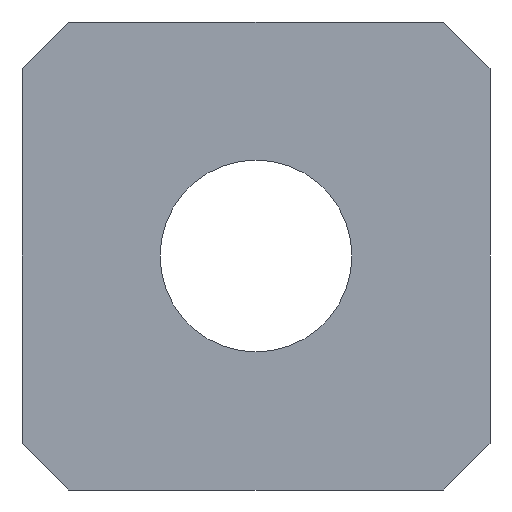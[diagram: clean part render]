
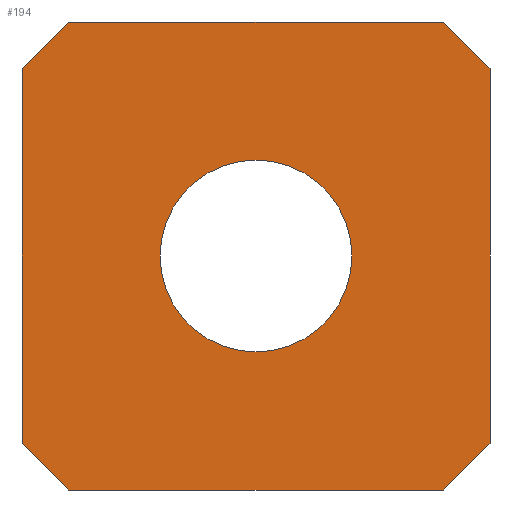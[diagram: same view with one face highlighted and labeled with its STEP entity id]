
A CAD part, front view. The second image highlights one B-rep face of the part: STEP entity #194.
In plain terms, the highlighted planar face has unit normal (0, -1, 0).
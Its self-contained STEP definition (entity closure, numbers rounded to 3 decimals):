
#1=DIRECTION('',(0.,0.,1.));
#2=VECTOR('',#1,16.);
#3=CARTESIAN_POINT('',(-10.,0.,-8.));
#4=LINE('',#3,#2);
#5=DIRECTION('',(1.,0.,0.));
#6=VECTOR('',#5,16.);
#7=CARTESIAN_POINT('',(-8.,0.,10.));
#8=LINE('',#7,#6);
#9=DIRECTION('',(0.,0.,-1.));
#10=VECTOR('',#9,16.);
#11=CARTESIAN_POINT('',(10.,0.,8.));
#12=LINE('',#11,#10);
#13=DIRECTION('',(-1.,0.,0.));
#14=VECTOR('',#13,16.);
#15=CARTESIAN_POINT('',(8.,0.,-10.));
#16=LINE('',#15,#14);
#17=CARTESIAN_POINT('',(0.,0.,0.));
#18=DIRECTION('',(0.,1.,0.));
#19=DIRECTION('',(1.,0.,0.));
#20=AXIS2_PLACEMENT_3D('',#17,#18,#19);
#22=CARTESIAN_POINT('',(0.,0.,0.));
#23=DIRECTION('',(0.,1.,0.));
#24=DIRECTION('',(-1.,0.,0.));
#25=AXIS2_PLACEMENT_3D('',#22,#23,#24);
#31=DIRECTION('',(0.707,0.,-0.707));
#32=VECTOR('',#31,2.828);
#33=CARTESIAN_POINT('',(-10.,0.,-8.));
#34=LINE('',#33,#32);
#47=DIRECTION('',(0.707,0.,0.707));
#48=VECTOR('',#47,2.828);
#49=CARTESIAN_POINT('',(8.,0.,-10.));
#50=LINE('',#49,#48);
#63=DIRECTION('',(-0.707,0.,0.707));
#64=VECTOR('',#63,2.828);
#65=CARTESIAN_POINT('',(10.,0.,8.));
#66=LINE('',#65,#64);
#79=DIRECTION('',(-0.707,0.,-0.707));
#80=VECTOR('',#79,2.828);
#81=CARTESIAN_POINT('',(-8.,0.,10.));
#82=LINE('',#81,#80);
#125=CARTESIAN_POINT('',(4.1,0.,0.));
#126=CARTESIAN_POINT('',(-4.1,0.,0.));
#127=VERTEX_POINT('',#125);
#128=VERTEX_POINT('',#126);
#133=CARTESIAN_POINT('',(10.,0.,8.));
#135=VERTEX_POINT('',#133);
#137=CARTESIAN_POINT('',(8.,0.,10.));
#139=VERTEX_POINT('',#137);
#141=CARTESIAN_POINT('',(-8.,0.,10.));
#143=VERTEX_POINT('',#141);
#145=CARTESIAN_POINT('',(-10.,0.,8.));
#147=VERTEX_POINT('',#145);
#149=CARTESIAN_POINT('',(-10.,0.,-8.));
#151=VERTEX_POINT('',#149);
#153=CARTESIAN_POINT('',(-8.,0.,-10.));
#155=VERTEX_POINT('',#153);
#157=CARTESIAN_POINT('',(8.,0.,-10.));
#159=VERTEX_POINT('',#157);
#161=CARTESIAN_POINT('',(10.,0.,-8.));
#163=VERTEX_POINT('',#161);
#165=CARTESIAN_POINT('',(0.,0.,0.));
#166=DIRECTION('',(0.,1.,0.));
#167=DIRECTION('',(1.,0.,0.));
#168=AXIS2_PLACEMENT_3D('',#165,#166,#167);
#169=PLANE('',#168);
#171=ORIENTED_EDGE('',*,*,#170,.T.);
#173=ORIENTED_EDGE('',*,*,#172,.F.);
#175=ORIENTED_EDGE('',*,*,#174,.T.);
#177=ORIENTED_EDGE('',*,*,#176,.F.);
#179=ORIENTED_EDGE('',*,*,#178,.T.);
#181=ORIENTED_EDGE('',*,*,#180,.F.);
#183=ORIENTED_EDGE('',*,*,#182,.T.);
#185=ORIENTED_EDGE('',*,*,#184,.F.);
#186=EDGE_LOOP('',(#171,#173,#175,#177,#179,#181,#183,#185));
#187=FACE_OUTER_BOUND('',#186,.F.);
#189=ORIENTED_EDGE('',*,*,#188,.F.);
#191=ORIENTED_EDGE('',*,*,#190,.F.);
#192=EDGE_LOOP('',(#189,#191));
#193=FACE_BOUND('',#192,.F.);
#194=ADVANCED_FACE('',(#187,#193),#169,.F.);
#21=CIRCLE('',#20,4.1);
#26=CIRCLE('',#25,4.1);
#170=EDGE_CURVE('',#151,#147,#4,.T.);
#172=EDGE_CURVE('',#143,#147,#82,.T.);
#174=EDGE_CURVE('',#143,#139,#8,.T.);
#176=EDGE_CURVE('',#135,#139,#66,.T.);
#178=EDGE_CURVE('',#135,#163,#12,.T.);
#180=EDGE_CURVE('',#159,#163,#50,.T.);
#182=EDGE_CURVE('',#159,#155,#16,.T.);
#184=EDGE_CURVE('',#151,#155,#34,.T.);
#188=EDGE_CURVE('',#127,#128,#21,.T.);
#190=EDGE_CURVE('',#128,#127,#26,.T.);
